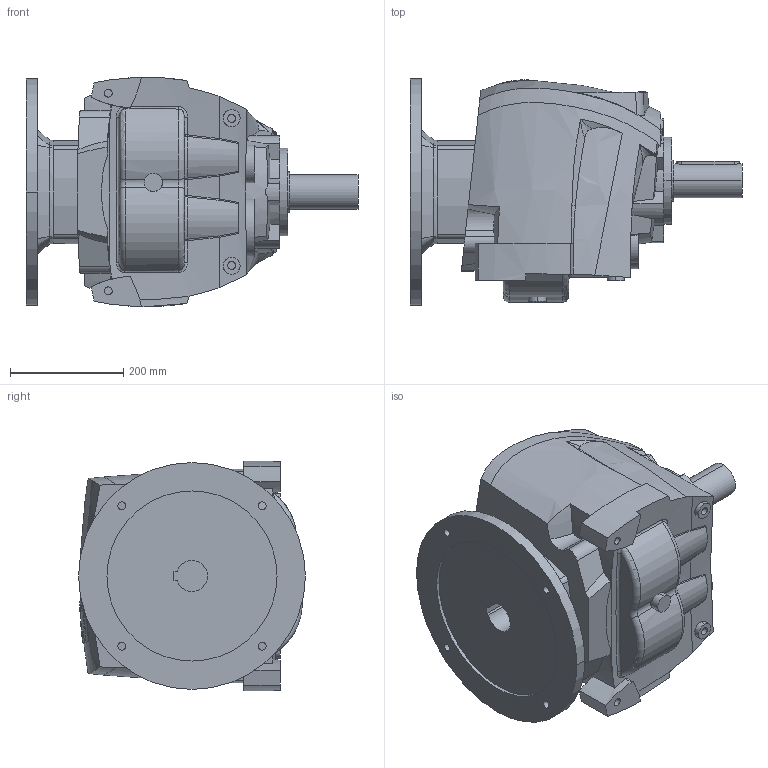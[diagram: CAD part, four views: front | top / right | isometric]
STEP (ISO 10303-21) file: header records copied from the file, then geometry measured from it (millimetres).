
FILE_DESCRIPTION((''),'2;1');
FILE_NAME('R60_UNV_PAM200','2013-12-22T',('Luca'),(''),'PRO/ENGINEER BY PARAMETRIC TECHNOLOGY CORPORATION, 2008230','PRO/ENGINEER BY PARAMETRIC TECHNOLOGY CORPORATION, 2008230','');
FILE_SCHEMA(('CONFIG_CONTROL_DESIGN'));
Length unit declared in the file: millimetre
Products named in the file (1): R60_UNV_PAM200
Bounding box: 585.5 x 400 x 404.24 mm (x, y, z)
Volume: 40935069.8 mm3; surface area: 1007501.6 mm2
Topology: 1 solids, 1 shells, 440 faces, 1166 edges, 768 vertices
Faces by surface type: plane 164, cylinder 144, bspline 100, torus 14, cone 13, sphere 4, extrusion 1
Entity records: 19238 total; most frequent: CARTESIAN_POINT 9195, ORIENTED_EDGE 2328, DIRECTION 1672, EDGE_CURVE 1164, VERTEX_POINT 768, AXIS2_PLACEMENT_3D 605, EDGE_LOOP 490, VECTOR 462
